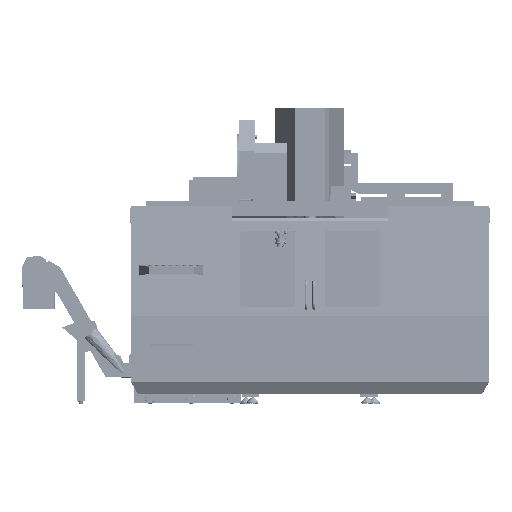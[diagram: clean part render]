
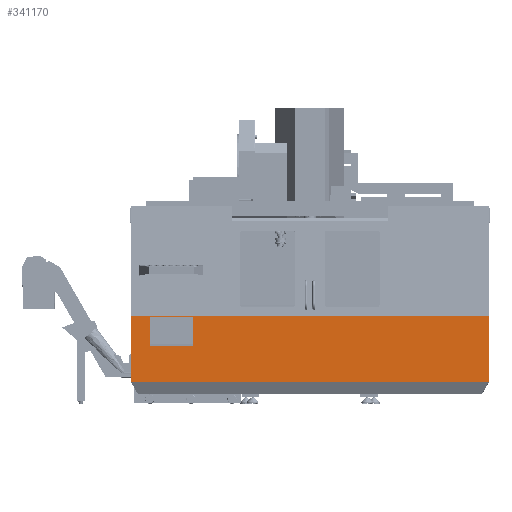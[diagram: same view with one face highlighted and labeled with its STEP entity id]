
A CAD part, top view. The second image highlights one B-rep face of the part: STEP entity #341170.
In plain terms, the highlighted planar face has unit normal (0, 0, 1).
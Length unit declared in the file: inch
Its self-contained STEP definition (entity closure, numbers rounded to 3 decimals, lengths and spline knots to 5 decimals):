
#1559 = EDGE_CURVE ( 'NONE', #486288, #515882, #521685, .T. ) ;
#2519 = DIRECTION ( 'NONE',  ( -0.966, 0.259, 0. ) ) ;
#15572 = VECTOR ( 'NONE', #291929, 39.37008 ) ;
#17853 = ORIENTED_EDGE ( 'NONE', *, *, #420365, .F. ) ;
#22116 = VECTOR ( 'NONE', #436487, 39.37008 ) ;
#40266 = CARTESIAN_POINT ( 'NONE',  ( 17.67745, -115.85023, 91.20865 ) ) ;
#41803 = LINE ( 'NONE', #127941, #55016 ) ;
#55016 = VECTOR ( 'NONE', #303044, 39.37008 ) ;
#58621 = CARTESIAN_POINT ( 'NONE',  ( -78.17824, -13.0798, 91.20865 ) ) ;
#64495 = FACE_OUTER_BOUND ( 'NONE', #403571, .T. ) ;
#65280 = CARTESIAN_POINT ( 'NONE',  ( -72.83434, -22.3357, 91.20865 ) ) ;
#67171 = VECTOR ( 'NONE', #365127, 39.37008 ) ;
#70128 = CARTESIAN_POINT ( 'NONE',  ( -160.32616, -13.0798, 91.20865 ) ) ;
#71035 = EDGE_CURVE ( 'NONE', #486288, #115883, #426743, .T. ) ;
#77655 = DIRECTION ( 'NONE',  ( -0.5, -0.866, 0. ) ) ;
#85942 = EDGE_CURVE ( 'NONE', #422521, #203056, #426387, .T. ) ;
#88815 = VECTOR ( 'NONE', #286210, 39.37008 ) ;
#95774 = ORIENTED_EDGE ( 'NONE', *, *, #330905, .F. ) ;
#111100 = CARTESIAN_POINT ( 'NONE',  ( -78.25, -13.0798, 91.20865 ) ) ;
#112394 = CARTESIAN_POINT ( 'NONE',  ( 77.01199, -13.0798, 91.20865 ) ) ;
#115883 = VERTEX_POINT ( 'NONE', #282120 ) ;
#122301 = EDGE_CURVE ( 'NONE', #322573, #357180, #142978, .T. ) ;
#127941 = CARTESIAN_POINT ( 'NONE',  ( -51.0503, 15.65888, 91.20865 ) ) ;
#129178 = CARTESIAN_POINT ( 'NONE',  ( -78.25, 15.83715, 91.20865 ) ) ;
#129334 = CARTESIAN_POINT ( 'NONE',  ( -160.32616, -13.0798, 91.20865 ) ) ;
#137323 = CARTESIAN_POINT ( 'NONE',  ( -144.31351, 46.68021, 91.20865 ) ) ;
#137541 = VECTOR ( 'NONE', #367264, 39.37008 ) ;
#142132 = CARTESIAN_POINT ( 'NONE',  ( -70.0497, 3.68972, 91.20865 ) ) ;
#142388 = EDGE_CURVE ( 'NONE', #357180, #407079, #471042, .T. ) ;
#142978 = LINE ( 'NONE', #137323, #521155 ) ;
#144091 = AXIS2_PLACEMENT_3D ( 'NONE', #70128, #293989, #503811 ) ;
#162046 = ORIENTED_EDGE ( 'NONE', *, *, #527974, .F. ) ;
#173590 = VECTOR ( 'NONE', #254644, 39.37008 ) ;
#181956 = VECTOR ( 'NONE', #558523, 39.37008 ) ;
#189286 = CARTESIAN_POINT ( 'NONE',  ( -70.0497, 15.65888, 91.20865 ) ) ;
#190006 = CARTESIAN_POINT ( 'NONE',  ( 78.25, -13.0798, 91.20865 ) ) ;
#192041 = CARTESIAN_POINT ( 'NONE',  ( -51.0503, 3.68972, 91.20865 ) ) ;
#198477 = LINE ( 'NONE', #190006, #67171 ) ;
#203056 = VERTEX_POINT ( 'NONE', #192041 ) ;
#205015 = PLANE ( 'NONE',  #144091 ) ;
#213090 = VECTOR ( 'NONE', #496030, 39.37008 ) ;
#223756 = CARTESIAN_POINT ( 'NONE',  ( -70.0497, 15.65888, 91.20865 ) ) ;
#234780 = ORIENTED_EDGE ( 'NONE', *, *, #528247, .T. ) ;
#251843 = EDGE_LOOP ( 'NONE', ( #465854, #310976, #17853, #545974 ) ) ;
#253895 = VERTEX_POINT ( 'NONE', #223756 ) ;
#254644 = DIRECTION ( 'NONE',  ( 1., 0., 0. ) ) ;
#265072 = CARTESIAN_POINT ( 'NONE',  ( -51.0503, 15.65888, 91.20865 ) ) ;
#282120 = CARTESIAN_POINT ( 'NONE',  ( -78.25, -12.9555, 91.20865 ) ) ;
#286210 = DIRECTION ( 'NONE',  ( 0., -1., 0. ) ) ;
#291929 = DIRECTION ( 'NONE',  ( -0.5, 0.866, 0. ) ) ;
#293989 = DIRECTION ( 'NONE',  ( 0., 0., 1. ) ) ;
#294163 = VECTOR ( 'NONE', #77655, 39.37008 ) ;
#303044 = DIRECTION ( 'NONE',  ( 0., 1., 0. ) ) ;
#305135 = ORIENTED_EDGE ( 'NONE', *, *, #122301, .F. ) ;
#308786 = EDGE_CURVE ( 'NONE', #203056, #529933, #41803, .T. ) ;
#310976 = ORIENTED_EDGE ( 'NONE', *, *, #85942, .F. ) ;
#321307 = LINE ( 'NONE', #189286, #137541 ) ;
#322573 = VERTEX_POINT ( 'NONE', #512306 ) ;
#326475 = CARTESIAN_POINT ( 'NONE',  ( -87.63061, 15.65888, 91.20865 ) ) ;
#330905 = EDGE_CURVE ( 'NONE', #446460, #115883, #550522, .T. ) ;
#340566 = CARTESIAN_POINT ( 'NONE',  ( 77.24, -12.68487, 91.20865 ) ) ;
#341170 = ADVANCED_FACE ( 'NONE', ( #64495, #414777 ), #205015, .T. ) ;
#345862 = CARTESIAN_POINT ( 'NONE',  ( -87.63061, 3.68972, 91.20865 ) ) ;
#347498 = LINE ( 'NONE', #129334, #22116 ) ;
#357180 = VERTEX_POINT ( 'NONE', #340566 ) ;
#365127 = DIRECTION ( 'NONE',  ( 0., -1., 0. ) ) ;
#366293 = ORIENTED_EDGE ( 'NONE', *, *, #71035, .T. ) ;
#367264 = DIRECTION ( 'NONE',  ( 0., -1., 0. ) ) ;
#389866 = CARTESIAN_POINT ( 'NONE',  ( 78.25, 15.83715, 91.20865 ) ) ;
#403571 = EDGE_LOOP ( 'NONE', ( #543760, #305135, #162046, #439063, #366293, #95774, #234780 ) ) ;
#407079 = VERTEX_POINT ( 'NONE', #112394 ) ;
#414777 = FACE_BOUND ( 'NONE', #251843, .T. ) ;
#420365 = EDGE_CURVE ( 'NONE', #253895, #422521, #321307, .T. ) ;
#422521 = VERTEX_POINT ( 'NONE', #142132 ) ;
#426387 = LINE ( 'NONE', #345862, #181956 ) ;
#426743 = LINE ( 'NONE', #111100, #88815 ) ;
#436487 = DIRECTION ( 'NONE',  ( 1., 0., 0. ) ) ;
#439063 = ORIENTED_EDGE ( 'NONE', *, *, #1559, .F. ) ;
#446460 = VERTEX_POINT ( 'NONE', #58621 ) ;
#465854 = ORIENTED_EDGE ( 'NONE', *, *, #308786, .F. ) ;
#471042 = LINE ( 'NONE', #40266, #294163 ) ;
#486288 = VERTEX_POINT ( 'NONE', #129178 ) ;
#496030 = DIRECTION ( 'NONE',  ( 1., 0., 0. ) ) ;
#499455 = EDGE_CURVE ( 'NONE', #253895, #529933, #550478, .T. ) ;
#503811 = DIRECTION ( 'NONE',  ( 1., 0., 0. ) ) ;
#512306 = CARTESIAN_POINT ( 'NONE',  ( 78.25, -12.9555, 91.20865 ) ) ;
#515882 = VERTEX_POINT ( 'NONE', #389866 ) ;
#521155 = VECTOR ( 'NONE', #2519, 39.37008 ) ;
#521685 = LINE ( 'NONE', #556298, #173590 ) ;
#527974 = EDGE_CURVE ( 'NONE', #515882, #322573, #198477, .T. ) ;
#528247 = EDGE_CURVE ( 'NONE', #446460, #407079, #347498, .T. ) ;
#529933 = VERTEX_POINT ( 'NONE', #265072 ) ;
#543760 = ORIENTED_EDGE ( 'NONE', *, *, #142388, .F. ) ;
#545974 = ORIENTED_EDGE ( 'NONE', *, *, #499455, .T. ) ;
#550478 = LINE ( 'NONE', #326475, #213090 ) ;
#550522 = LINE ( 'NONE', #65280, #15572 ) ;
#556298 = CARTESIAN_POINT ( 'NONE',  ( -160.32616, 15.83715, 91.20865 ) ) ;
#558523 = DIRECTION ( 'NONE',  ( 1., 0., 0. ) ) ;
